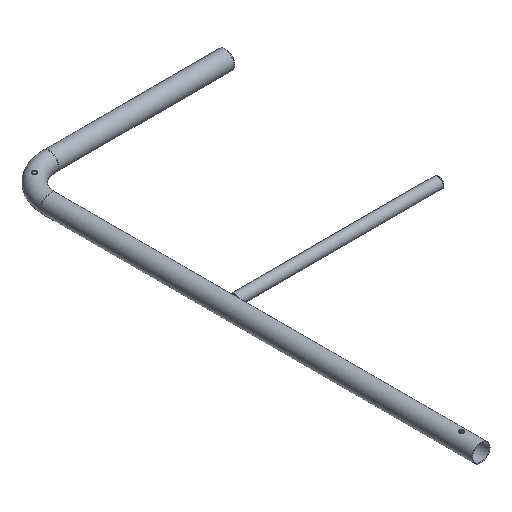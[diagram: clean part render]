
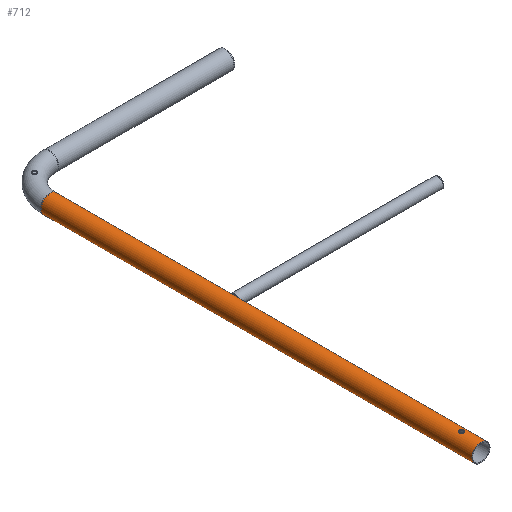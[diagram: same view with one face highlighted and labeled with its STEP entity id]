
A CAD part, isometric view. The second image highlights one B-rep face of the part: STEP entity #712.
In plain terms, the highlighted cylindrical face has radius 21.2 mm (diameter 42.4 mm), a full revolution.
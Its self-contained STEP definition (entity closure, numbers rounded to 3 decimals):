
#112=CARTESIAN_POINT('',(5.0,45.0,-20.602));
#113=VERTEX_POINT('',#112);
#114=CARTESIAN_POINT('',(5.0,45.0,-20.602));
#115=CARTESIAN_POINT('',(5.0,45.63,-20.602));
#116=CARTESIAN_POINT('',(4.874,46.301,-20.634));
#117=CARTESIAN_POINT('',(4.363,47.532,-20.748));
#118=CARTESIAN_POINT('',(3.978,48.093,-20.828));
#119=CARTESIAN_POINT('',(3.093,48.978,-20.978));
#120=CARTESIAN_POINT('',(2.532,49.363,-21.057));
#121=CARTESIAN_POINT('',(1.301,49.874,-21.169));
#122=CARTESIAN_POINT('',(0.63,50.0,-21.2));
#123=CARTESIAN_POINT('',(-0.63,50.0,-21.2));
#124=CARTESIAN_POINT('',(-1.301,49.874,-21.169));
#125=CARTESIAN_POINT('',(-2.532,49.363,-21.057));
#126=CARTESIAN_POINT('',(-3.093,48.978,-20.978));
#127=CARTESIAN_POINT('',(-3.978,48.093,-20.828));
#128=CARTESIAN_POINT('',(-4.363,47.532,-20.748));
#129=CARTESIAN_POINT('',(-4.874,46.301,-20.634));
#130=CARTESIAN_POINT('',(-5.,45.63,-20.602));
#131=CARTESIAN_POINT('',(-5.,44.37,-20.602));
#132=CARTESIAN_POINT('',(-4.874,43.699,-20.634));
#133=CARTESIAN_POINT('',(-4.363,42.468,-20.748));
#134=CARTESIAN_POINT('',(-3.978,41.907,-20.828));
#135=CARTESIAN_POINT('',(-3.093,41.022,-20.978));
#136=CARTESIAN_POINT('',(-2.532,40.637,-21.057));
#137=CARTESIAN_POINT('',(-1.301,40.126,-21.169));
#138=CARTESIAN_POINT('',(-0.63,40.0,-21.2));
#139=CARTESIAN_POINT('',(0.63,40.0,-21.2));
#140=CARTESIAN_POINT('',(1.301,40.126,-21.169));
#141=CARTESIAN_POINT('',(2.532,40.637,-21.057));
#142=CARTESIAN_POINT('',(3.093,41.022,-20.978));
#143=CARTESIAN_POINT('',(3.978,41.907,-20.828));
#144=CARTESIAN_POINT('',(4.363,42.468,-20.748));
#145=CARTESIAN_POINT('',(4.874,43.699,-20.634));
#146=CARTESIAN_POINT('',(5.0,44.37,-20.602));
#147=CARTESIAN_POINT('',(5.0,45.0,-20.602));
#148=B_SPLINE_CURVE_WITH_KNOTS('',3,(#114,#115,#116,#117,#118,#119,#120,#121,#122,#123,#124,#125,#126,#127,#128,#129,#130,#131,#132,#133,#134,#135,#136,#137,#138,#139,#140,#141,#142,#143,#144,#145,#146,#147),.UNSPECIFIED.,.T.,.U.,(4,2,2,2,2,2,2,2,2,2,2,2,2,2,2,2,4),(0.0,0.189,0.378,0.567,0.756,0.946,1.135,1.324,1.513,1.702,1.891,2.08,2.269,2.458,2.648,2.837,3.026),.UNSPECIFIED.);
#149=EDGE_CURVE('',#113,#113,#148,.T.);
#241=CARTESIAN_POINT('',(5.,45.,20.602));
#242=VERTEX_POINT('',#241);
#243=CARTESIAN_POINT('',(5.,45.,20.602));
#244=CARTESIAN_POINT('',(5.,44.37,20.602));
#245=CARTESIAN_POINT('',(4.874,43.699,20.634));
#246=CARTESIAN_POINT('',(4.363,42.468,20.748));
#247=CARTESIAN_POINT('',(3.978,41.907,20.828));
#248=CARTESIAN_POINT('',(3.093,41.022,20.978));
#249=CARTESIAN_POINT('',(2.532,40.637,21.057));
#250=CARTESIAN_POINT('',(1.301,40.126,21.169));
#251=CARTESIAN_POINT('',(0.63,40.0,21.2));
#252=CARTESIAN_POINT('',(-0.63,40.0,21.2));
#253=CARTESIAN_POINT('',(-1.301,40.126,21.169));
#254=CARTESIAN_POINT('',(-2.532,40.637,21.057));
#255=CARTESIAN_POINT('',(-3.093,41.022,20.978));
#256=CARTESIAN_POINT('',(-3.978,41.907,20.828));
#257=CARTESIAN_POINT('',(-4.363,42.468,20.748));
#258=CARTESIAN_POINT('',(-4.874,43.699,20.634));
#259=CARTESIAN_POINT('',(-5.,44.37,20.602));
#260=CARTESIAN_POINT('',(-5.,45.63,20.602));
#261=CARTESIAN_POINT('',(-4.874,46.301,20.634));
#262=CARTESIAN_POINT('',(-4.363,47.532,20.748));
#263=CARTESIAN_POINT('',(-3.978,48.093,20.828));
#264=CARTESIAN_POINT('',(-3.093,48.978,20.978));
#265=CARTESIAN_POINT('',(-2.532,49.363,21.057));
#266=CARTESIAN_POINT('',(-1.301,49.874,21.169));
#267=CARTESIAN_POINT('',(-0.63,50.0,21.2));
#268=CARTESIAN_POINT('',(0.63,50.0,21.2));
#269=CARTESIAN_POINT('',(1.301,49.874,21.169));
#270=CARTESIAN_POINT('',(2.532,49.363,21.057));
#271=CARTESIAN_POINT('',(3.093,48.978,20.978));
#272=CARTESIAN_POINT('',(3.978,48.093,20.828));
#273=CARTESIAN_POINT('',(4.363,47.532,20.748));
#274=CARTESIAN_POINT('',(4.874,46.301,20.634));
#275=CARTESIAN_POINT('',(5.0,45.63,20.602));
#276=CARTESIAN_POINT('',(5.0,45.,20.602));
#277=B_SPLINE_CURVE_WITH_KNOTS('',3,(#243,#244,#245,#246,#247,#248,#249,#250,#251,#252,#253,#254,#255,#256,#257,#258,#259,#260,#261,#262,#263,#264,#265,#266,#267,#268,#269,#270,#271,#272,#273,#274,#275,#276),.UNSPECIFIED.,.T.,.U.,(4,2,2,2,2,2,2,2,2,2,2,2,2,2,2,2,4),(0.0,0.189,0.378,0.567,0.756,0.946,1.135,1.324,1.513,1.702,1.891,2.08,2.269,2.458,2.648,2.837,3.026),.UNSPECIFIED.);
#278=EDGE_CURVE('',#242,#242,#277,.T.);
#675=CARTESIAN_POINT('',(-21.2,1013.5,0.));
#676=VERTEX_POINT('',#675);
#677=CARTESIAN_POINT('',(0.,1013.5,0.0));
#678=DIRECTION('',(0.0,-1.0,0.0));
#679=DIRECTION('',(1.0,0.0,0.0));
#680=AXIS2_PLACEMENT_3D('',#677,#678,#679);
#681=CIRCLE('',#680,21.2);
#682=EDGE_CURVE('',#676,#676,#681,.T.);
#687=CARTESIAN_POINT('',(0.0,0.0,0.0));
#688=DIRECTION('',(0.,1.0,0.0));
#689=DIRECTION('',(1.0,0.0,0.0));
#690=AXIS2_PLACEMENT_3D('',#687,#688,#689);
#691=CYLINDRICAL_SURFACE('',#690,21.2);
#692=ORIENTED_EDGE('',*,*,#682,.T.);
#693=EDGE_LOOP('',(#692));
#694=FACE_OUTER_BOUND('',#693,.T.);
#695=ORIENTED_EDGE('',*,*,#278,.T.);
#696=EDGE_LOOP('',(#695));
#697=FACE_BOUND('',#696,.T.);
#698=ORIENTED_EDGE('',*,*,#149,.T.);
#699=EDGE_LOOP('',(#698));
#700=FACE_BOUND('',#699,.T.);
#701=CARTESIAN_POINT('',(-21.2,0.0,0.));
#702=VERTEX_POINT('',#701);
#703=CARTESIAN_POINT('',(0.0,0.0,0.0));
#704=DIRECTION('',(0.0,-1.0,0.0));
#705=DIRECTION('',(1.0,0.0,0.0));
#706=AXIS2_PLACEMENT_3D('',#703,#704,#705);
#707=CIRCLE('',#706,21.2);
#708=EDGE_CURVE('',#702,#702,#707,.T.);
#709=ORIENTED_EDGE('',*,*,#708,.F.);
#710=EDGE_LOOP('',(#709));
#711=FACE_BOUND('',#710,.T.);
#712=ADVANCED_FACE('',(#694,#697,#700,#711),#691,.T.);
